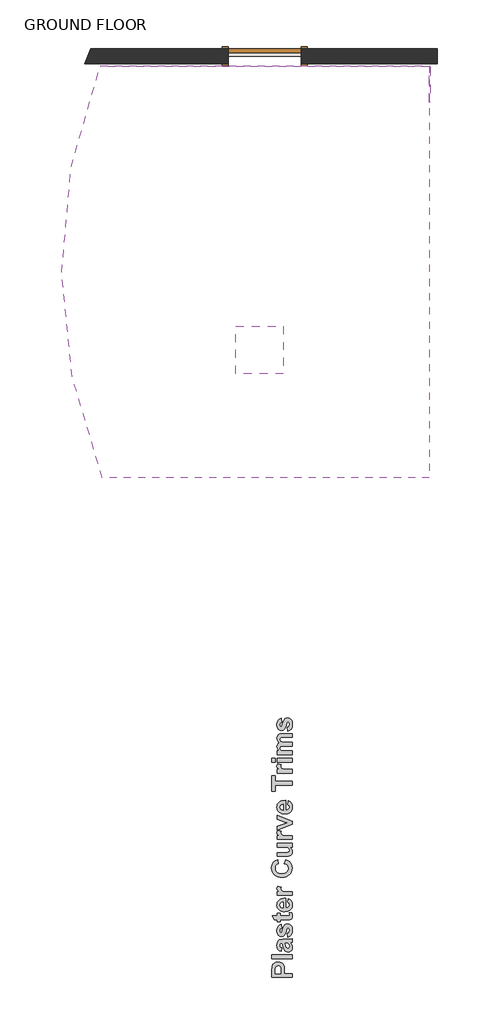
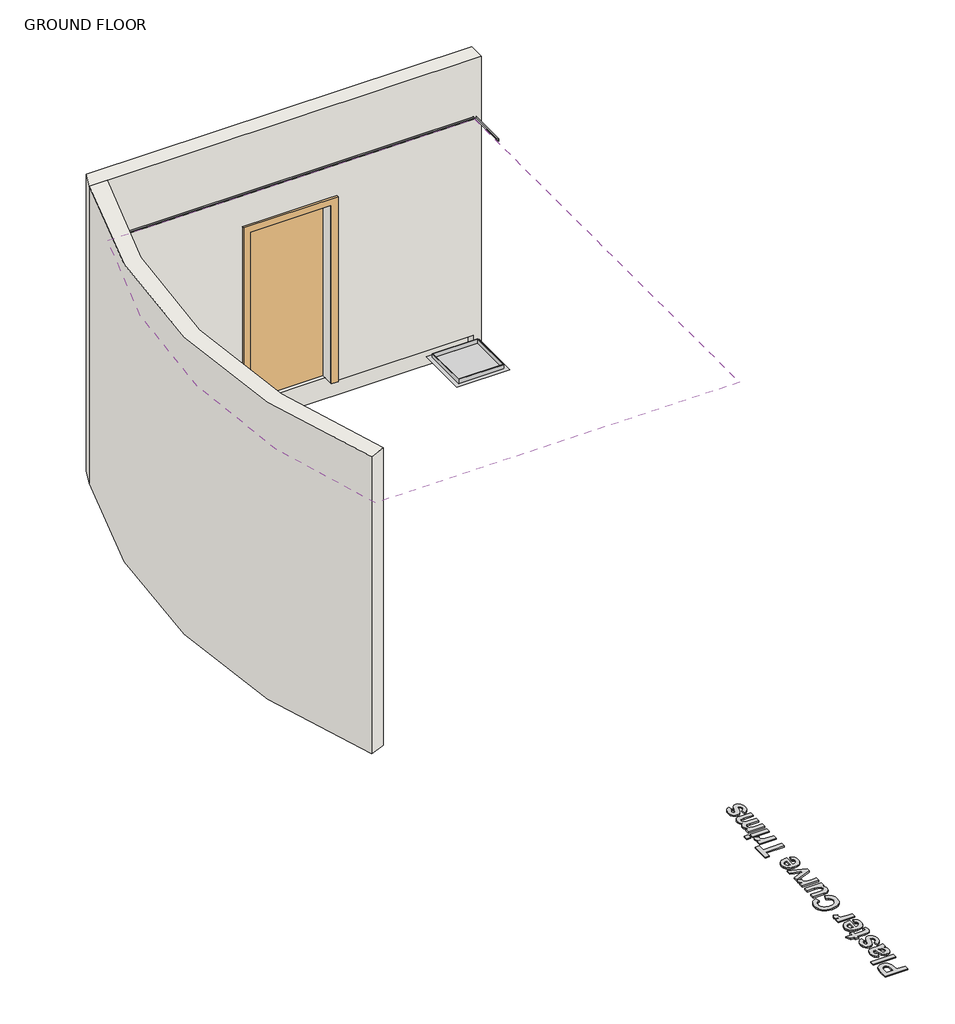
# One storey, incomplete: 2 beams, 2 proxies, 2 walls, 1 covering, 1 door.
"""IFC4 building model written with IfcOpenShell, lengths in millimetres."""

from ifc_helpers import new_model, si_unit, point, frame, frame_2d, origin, origin_with_axes, place, context, project, spatial, polyline, circle_curve, trimmed, segment, composite_curve, outline, extrude, faceted_brep, transform, mapped, element, save
from ifc_brep_helpers import plane_surface, cylinder_surface, revolved_surface, advanced_brep
from components import m_single_flush_0915_x_2134mm_f5238887

model = new_model("IFC4")

# Units and contexts
model_context = context("Model", 3, world=origin())
ifc_project = project(units=[si_unit("LENGTHUNIT", "METRE", prefix="MILLI")], contexts=[model_context])

# Site, building, storey
site = spatial("IfcSite", under=ifc_project)
building = spatial("IfcBuilding", under=site)
storey = spatial("IfcBuildingStorey", under=building, Name="GROUND FLOOR", Elevation=0.0)

# Beams
placement = place(None, origin())
element("IfcBeam", 1, ObjectType="TR12 : Trims Plaster Curve Trims", at=placement, inside=storey, context=model_context, shape_type="SweptSolid", body=[
    extrude(outline(polyline([(2637.0, 191977.7345529), (2637.0, 191976.7345529), (2620.0, 191976.7345529), (2620.0, 191961.7345529), (2619.0, 191961.7345529), (2619.0, 191976.7345529), (2607.0, 191976.7345529), (2607.0, 191977.7345529), (2637.0, 191977.7345529)])), frame((0.0, 41730.3541087, 0.0), z_axis=(0.0, 1.0, 0.0), x_axis=(0.0, 0.0, 1.0)), (0.0, 0.0, 1.0), 446.7622576),
])
element("IfcBeam", 2, ObjectType="TR12 : Trims Plaster Curve Trims", at=placement, inside=storey, context=model_context, shape_type="SweptSolid", body=[
    extrude(outline(polyline([(42193.1163664, 2629.0), (42193.1163664, 2599.0), (42192.1163664, 2599.0), (42192.1163664, 2611.0), (42177.1163664, 2611.0), (42177.1163664, 2612.0), (42192.1163664, 2612.0), (42192.1163664, 2629.0), (42193.1163664, 2629.0)])), frame((187833.1822609, 0.0, 0.0), z_axis=(1.0, 0.0, 0.0), x_axis=(0.0, 1.0, 0.0)), (0.0, 0.0, 1.0), 4128.5522921),
])

# Proxies
element("IfcBuildingElementProxy", 3, Name="600mm Arial", ObjectType="600mm Arial", at=placement, inside=storey, context=model_context, shape_type="SweptSolid", body=[
    extrude(outline(polyline([(190238.3994184, 30720.8631734), (189983.3345684, 30720.8631734), (189983.3345684, 30803.0380842), (189987.1301763, 30863.9575908), (189996.1842826, 30884.0031449), (190011.9597779, 30900.4903167), (190033.8715059, 30911.5213021), (190061.3343105, 30915.1982972), (190082.8190326, 30913.0395453), (190100.587222, 30906.5632893), (190114.7891215, 30896.7579689), (190125.5749739, 30884.6120237), (190137.626029, 30857.5683175), (190141.2318565, 30803.4809051), (190141.2318565, 30769.4469544), (190238.3994184, 30769.4469544), (190238.3994184, 30720.8631734)]), holes=[polyline([(190027.8697009, 30769.4469544), (190096.6967239, 30769.4469544), (190096.6967239, 30799.6220371), (190092.901116, 30843.1766376), (190080.9765813, 30860.3833933), (190072.1913305, 30865.0567356), (190062.093432, 30866.6145163), (190050.026562, 30864.4241342), (190040.2686867, 30857.8529881), (190033.2784422, 30847.94487), (190029.5144643, 30835.7435721), (190027.8697009, 30796.0794697), (190027.8697009, 30769.4469544)])]), origin_with_axes(), (0.0, 0.0, 1.0), 15.0),
    extrude(outline(polyline([(190238.3994184, 30955.6847814), (189983.3345684, 30955.6847814), (189983.3345684, 31004.2685623), (190238.3994184, 31004.2685623), (190238.3994184, 30955.6847814)])), origin_with_axes(), (0.0, 0.0, 1.0), 15.0),
    extrude(outline(polyline([(190108.8426692, 31093.3388274), (190100.7453723, 31048.8036949), (190077.4023838, 31058.4587724), (190061.0180098, 31073.2537357), (190051.3392097, 31094.817533), (190048.112943, 31124.7791127), (190050.0660995, 31151.870264), (190055.9255692, 31171.0222688), (190064.7819876, 31183.9589657), (190075.7259904, 31192.4041932), (190092.7350582, 31197.0538129), (190119.7866719, 31198.6036861), (190177.2268713, 31198.6036861), (190213.4116665, 31201.1657214), (190238.3994184, 31210.7496314), (190238.3994184, 31162.1658504), (190222.9639463, 31157.6111209), (190216.8277135, 31155.9030974), (190236.0271634, 31129.9031834), (190240.8428409, 31115.5905786), (190242.4480668, 31100.360702), (190238.5496612, 31075.586453), (190226.8544444, 31056.6795812), (190209.2127752, 31044.6996938), (190187.4750126, 31040.706398), (190172.5772516, 31042.4855892), (190159.3875142, 31047.8231628), (190148.4909566, 31056.3711881), (190140.4727349, 31067.7817343), (190129.0226511, 31104.7889112), (190116.939966, 31150.0199052), (190111.8158953, 31150.0199052), (190099.1954991, 31148.5095695), (190090.8135317, 31143.9785626), (190086.1164669, 31135.272387), (190084.5507787, 31121.2365454), (190085.8950565, 31111.1623694), (190089.9278899, 31103.5869687), (190108.8426692, 31093.3388274)]), holes=[polyline([(190153.3778017, 31150.0199052), (190160.1150057, 31122.6282683), (190167.8011117, 31098.0833373), (190174.712281, 31091.4884686), (190183.2998439, 31089.290179), (190191.9111293, 31091.0535551), (190199.2730271, 31096.3436836), (190204.3259301, 31104.3539978), (190206.0102311, 31114.2779309), (190204.049167, 31126.1866506), (190198.1659748, 31137.4943991), (190183.6161445, 31148.2486215), (190162.17096, 31150.0199052), (190153.3778017, 31150.0199052)])]), origin_with_axes(), (0.0, 0.0, 1.0), 15.0),
    extrude(outline(polyline([(190185.766989, 31226.944225), (190177.6696922, 31275.528006), (190189.9105276, 31280.1539031), (190198.7985761, 31287.9586218), (190204.2073173, 31299.2110177), (190206.0102311, 31314.1799463), (190204.2863925, 31330.421985), (190199.1148767, 31342.0776642), (190193.484725, 31346.8221741), (190186.2098099, 31348.4036774), (190177.100351, 31345.0508904), (190170.7110777, 31329.1725974), (190158.2804619, 31282.2493949), (190146.9252683, 31256.3601861), (190128.9435759, 31240.3711879), (190105.1103214, 31235.0415218), (190082.9218303, 31239.6120663), (190064.5605772, 31253.3236998), (190052.2248515, 31276.6508733), (190048.112943, 31310.0680377), (190051.4340999, 31341.9353289), (190061.3975706, 31364.4084906), (190077.8768348, 31379.4169568), (190100.7453723, 31388.8901615), (190108.8426692, 31340.3063806), (190098.4521926, 31336.7321831), (190090.8135317, 31330.9438811), (190086.1164669, 31322.5935438), (190084.5507787, 31311.3332404), (190085.8792415, 31297.4950866), (190089.8646297, 31288.2432924), (190099.7332102, 31283.6253028), (190108.5263685, 31288.2432924), (190122.1272968, 31331.2285517), (190131.9484322, 31362.4553341), (190143.8255219, 31382.5641484), (190159.4982194, 31393.3816308), (190180.3266177, 31396.9874583), (190204.0254444, 31391.76059), (190224.1342587, 31376.0799849), (190232.1465498, 31364.3709299), (190237.8696148, 31350.1512385), (190242.4480668, 31314.1799463), (190238.6366439, 31280.8655795), (190227.2023751, 31255.316394), (190209.2206827, 31237.3900542), (190185.766989, 31226.944225)])), origin_with_axes(), (0.0, 0.0, 1.0), 15.0),
    extrude(outline(polyline([(190052.1615914, 31530.5928559), (190088.5994271, 31530.5928559), (190088.5994271, 31494.1550202), (190168.4969731, 31494.1550202), (190196.7426218, 31495.2620725), (190203.3849356, 31500.291253), (190206.0102311, 31509.8435328), (190201.3289813, 31532.6171802), (190235.8690131, 31534.6415044), (190240.8033034, 31515.9006904), (190242.4480668, 31494.8508817), (190237.8933373, 31470.3059507), (190226.1269529, 31454.2695074), (190206.5795723, 31447.1527426), (190171.2171588, 31445.5712393), (190088.5994271, 31445.5712393), (190088.5994271, 31421.2793488), (190052.1615914, 31421.2793488), (190052.1615914, 31445.5712393), (190015.7237557, 31445.5712393), (189987.3832168, 31494.1550202), (190052.1615914, 31494.1550202), (190052.1615914, 31530.5928559)])), origin_with_axes(), (0.0, 0.0, 1.0), 15.0),
    extrude(outline(polyline([(190181.7183406, 31664.1982536), (190189.8156374, 31712.7820345), (190212.486487, 31700.9523899), (190229.0052889, 31683.8088943), (190239.0873723, 31661.525513), (190242.4480668, 31634.2762114), (190240.4672339, 31612.2735469), (190234.5247353, 31593.3310913), (190224.620571, 31577.4488446), (190210.7547409, 31564.6268067), (190182.0504563, 31551.2472889), (190146.6722278, 31546.7874496), (190124.8316674, 31548.2661552), (190105.4898822, 31552.7022719), (190088.6468722, 31560.0957998), (190074.3026374, 31570.4467388), (190062.8446461, 31583.0592275), (190054.6603666, 31597.2374044), (190049.7497989, 31612.9812696), (190048.112943, 31630.2908231), (190049.7932902, 31649.5258568), (190054.8343319, 31666.6179536), (190063.2360682, 31681.5671134), (190074.9984988, 31694.3733363), (190090.2323293, 31704.5779862), (190109.0482646, 31711.7224273), (190131.4463049, 31715.8066595), (190157.4264501, 31716.8306829), (190157.4264501, 31595.3712305), (190177.8911026, 31598.486792), (190193.2316845, 31606.8213143), (190202.8155944, 31619.1095949), (190206.0102311, 31634.086431), (190204.5710631, 31644.2871272), (190200.2535591, 31652.7481698), (190192.7414185, 31659.4062986), (190181.7183406, 31664.1982536)]), holes=[polyline([(190129.0859112, 31668.246902), (190109.8785538, 31665.2894908), (190095.9059723, 31657.4294195), (190087.3895771, 31646.0109658), (190084.5507787, 31632.3784074), (190087.5398199, 31617.9867275), (190096.5069435, 31606.3152333), (190110.661398, 31598.6607574), (190129.0859112, 31596.1936123), (190129.0859112, 31668.246902)])]), origin_with_axes(), (0.0, 0.0, 1.0), 15.0),
    extrude(outline(polyline([(190238.3994184, 31801.8522996), (190238.3994184, 31753.2685186), (190052.1615914, 31753.2685186), (190052.1615914, 31801.8522996), (190078.0982453, 31801.8522996), (190053.901245, 31821.2731599), (190048.112943, 31840.8838007), (190050.6749783, 31856.0504172), (190058.3610843, 31870.6793226), (190104.6042404, 31856.5090532), (190098.673603, 31844.8059288), (190096.6967239, 31833.9884464), (190102.2319854, 31816.8765808), (190109.9892591, 31810.6296428), (190122.1905569, 31805.8693179), (190182.6672426, 31801.8522996), (190238.3994184, 31801.8522996)])), origin_with_axes(), (0.0, 0.0, 1.0), 15.0),
    extrude(outline(polyline([(190141.2318565, 32154.0847115), (190157.4264501, 32202.6684924), (190193.207962, 32187.3437256), (190207.1429828, 32176.822775), (190218.4408469, 32164.3961129), (190233.4097755, 32134.0312498), (190238.3994184, 32096.4547317), (190236.2683427, 32072.1272574), (190229.8751157, 32050.0692403), (190219.2197373, 32030.2806805), (190204.3022075, 32012.7615778), (190185.6879138, 31998.4252505), (190163.9422437, 31988.1850168), (190139.065197, 31982.0408765), (190111.0567738, 31979.9928297), (190081.5221999, 31982.0586684), (190055.4827483, 31988.2561844), (190032.938419, 31998.5853777), (190013.8892119, 32013.0462484), (189998.7502717, 32030.8757211), (189987.9367429, 32051.3107204), (189981.4486257, 32074.3512464), (189979.28592, 32099.9972991), (189981.0690649, 32122.4230157), (189986.4184998, 32142.6346277), (189995.3342246, 32160.6321351), (190007.8162393, 32176.4155379), (190028.3283369, 32191.7403047), (190056.2102398, 32202.6684924), (190064.3075366, 32154.0847115), (190047.5040642, 32146.6437385), (190034.6701651, 32133.9363596), (190026.5333306, 32116.9431068), (190023.8210525, 32096.6445121), (190028.7474352, 32069.1975226), (190043.5265835, 32047.4597599), (190054.9035227, 32039.1983821), (190069.3288096, 32033.297398), (190107.324426, 32028.5766107), (190147.3997193, 32033.1550627), (190162.3844629, 32038.8781277), (190174.0006046, 32046.8904187), (190188.8983655, 32067.96395), (190193.8642858, 32094.5569278), (190190.6933717, 32114.634112), (190181.1806295, 32131.722255), (190164.851608, 32145.1096803), (190141.2318565, 32154.0847115)])), origin_with_axes(), (0.0, 0.0, 1.0), 15.0),
    extrude(outline(polyline([(190238.3994184, 32360.5657805), (190211.0710416, 32360.5657805), (190224.1263512, 32349.3766448), (190234.0660994, 32335.1668377), (190240.3525749, 32318.9959666), (190242.4480668, 32301.9236387), (190240.3921125, 32285.0489986), (190234.2242497, 32269.9772723), (190224.3319466, 32257.7680669), (190211.1026717, 32249.4809897), (190193.3502973, 32244.7364798), (190169.888696, 32243.1549766), (190052.1615914, 32243.1549766), (190052.1615914, 32291.7387575), (190138.2586303, 32291.7387575), (190186.6842609, 32294.364053), (190200.7912702, 32303.9795929), (190206.0102311, 32321.7240598), (190204.2705775, 32333.3560165), (190199.0516166, 32343.7069555), (190191.2468979, 32351.8833275), (190181.7499707, 32356.9915831), (190131.1734956, 32360.5657805), (190052.1615914, 32360.5657805), (190052.1615914, 32409.1495615), (190238.3994184, 32409.1495615), (190238.3994184, 32360.5657805)])), origin_with_axes(), (0.0, 0.0, 1.0), 15.0),
    extrude(outline(polyline([(190238.3994184, 32506.3171234), (190238.3994184, 32457.7333424), (190052.1615914, 32457.7333424), (190052.1615914, 32506.3171234), (190078.0982453, 32506.3171234), (190053.901245, 32525.7379837), (190048.112943, 32545.3486245), (190050.6749783, 32560.515241), (190058.3610843, 32575.1441464), (190104.6042404, 32560.9738769), (190098.673603, 32549.2707526), (190096.6967239, 32538.4532701), (190102.2319854, 32521.3414046), (190109.9892591, 32515.0944666), (190122.1905569, 32510.3341417), (190182.6672426, 32506.3171234), (190238.3994184, 32506.3171234)])), origin_with_axes(), (0.0, 0.0, 1.0), 15.0),
    extrude(outline(polyline([(190238.3994184, 32645.3628923), (190052.1615914, 32573.1198222), (190052.1615914, 32621.7036031), (190147.1783088, 32656.2436349), (190178.9348948, 32666.2387357), (190162.9933417, 32671.1730259), (190147.1783088, 32676.2970966), (190052.1615914, 32710.7738682), (190052.1615914, 32759.3576492), (190238.3994184, 32688.1267411), (190238.3994184, 32645.3628923)])), origin_with_axes(), (0.0, 0.0, 1.0), 15.0),
    extrude(outline(polyline([(190181.7183406, 32894.987371), (190189.8156374, 32943.5711519), (190212.486487, 32931.7415073), (190229.0052889, 32914.5980117), (190239.0873723, 32892.3146304), (190242.4480668, 32865.0653288), (190240.4672339, 32843.0626643), (190234.5247353, 32824.1202087), (190224.620571, 32808.237962), (190210.7547409, 32795.4159241), (190182.0504563, 32782.0364063), (190146.6722278, 32777.576567), (190124.8316674, 32779.0552726), (190105.4898822, 32783.4913893), (190088.6468722, 32790.8849172), (190074.3026374, 32801.2358562), (190062.8446461, 32813.8483449), (190054.6603666, 32828.0265218), (190049.7497989, 32843.770387), (190048.112943, 32861.0799405), (190049.7932902, 32880.3149742), (190054.8343319, 32897.407071), (190063.2360682, 32912.3562308), (190074.9984988, 32925.1624537), (190090.2323293, 32935.3671036), (190109.0482646, 32942.5115447), (190131.4463049, 32946.595777), (190157.4264501, 32947.6198003), (190157.4264501, 32826.160348), (190177.8911026, 32829.2759094), (190193.2316845, 32837.6104317), (190202.8155944, 32849.8987123), (190206.0102311, 32864.8755484), (190204.5710631, 32875.0762446), (190200.2535591, 32883.5372872), (190192.7414185, 32890.195416), (190181.7183406, 32894.987371)]), holes=[polyline([(190129.0859112, 32899.0360194), (190109.8785538, 32896.0786082), (190095.9059723, 32888.2185369), (190087.3895771, 32876.8000832), (190084.5507787, 32863.1675249), (190087.5398199, 32848.7758449), (190096.5069435, 32837.1043507), (190110.661398, 32829.4498748), (190129.0859112, 32826.9827297), (190129.0859112, 32899.0360194)])]), origin_with_axes(), (0.0, 0.0, 1.0), 15.0),
    extrude(outline(polyline([(190238.3994184, 33137.9062757), (190027.8697009, 33137.9062757), (190027.8697009, 33065.0306043), (189983.3345684, 33065.0306043), (189983.3345684, 33259.3657281), (190027.8697009, 33259.3657281), (190027.8697009, 33186.4900567), (190238.3994184, 33186.4900567), (190238.3994184, 33137.9062757)])), origin_with_axes(), (0.0, 0.0, 1.0), 15.0),
    extrude(outline(polyline([(190238.3994184, 33340.3386963), (190238.3994184, 33291.7549154), (190052.1615914, 33291.7549154), (190052.1615914, 33340.3386963), (190078.0982453, 33340.3386963), (190053.901245, 33359.7595567), (190048.112943, 33379.3701975), (190050.6749783, 33394.536814), (190058.3610843, 33409.1657194), (190104.6042404, 33394.9954499), (190098.673603, 33383.2923256), (190096.6967239, 33372.4748431), (190102.2319854, 33355.3629776), (190109.9892591, 33349.1160396), (190122.1905569, 33344.3557147), (190182.6672426, 33340.3386963), (190238.3994184, 33340.3386963)])), origin_with_axes(), (0.0, 0.0, 1.0), 15.0),
    extrude(outline(polyline([(190238.3994184, 33429.4089614), (190052.1615914, 33429.4089614), (190052.1615914, 33477.9927424), (190238.3994184, 33477.9927424), (190238.3994184, 33429.4089614)])), origin_with_axes(), (0.0, 0.0, 1.0), 15.0),
    extrude(outline(polyline([(190027.8697009, 33429.4089614), (189983.3345684, 33429.4089614), (189983.3345684, 33477.9927424), (190027.8697009, 33477.9927424), (190027.8697009, 33429.4089614)])), origin_with_axes(), (0.0, 0.0, 1.0), 15.0),
    extrude(outline(polyline([(190052.1615914, 33522.5278749), (190052.1615914, 33571.1116559), (190077.0860832, 33571.1116559), (190064.4103343, 33583.0717745), (190055.356228, 33596.1152228), (190049.9237642, 33610.2420009), (190048.112943, 33625.4521088), (190049.8921342, 33641.1010838), (190055.2297078, 33654.5201392), (190064.1731089, 33665.72509), (190076.7697825, 33674.7317512), (190064.1731089, 33687.1702745), (190055.2297078, 33700.5735149), (190049.8921342, 33714.9256572), (190048.112943, 33730.2108864), (190050.1926198, 33748.6670298), (190056.4316503, 33764.0550568), (190066.7035141, 33776.1693719), (190080.8816911, 33784.8043799), (190096.4594984, 33788.5050976), (190119.4071111, 33789.7386701), (190238.3994184, 33789.7386701), (190238.3994184, 33741.1548892), (190131.1734956, 33741.1548892), (190108.2258829, 33739.9213166), (190095.1784808, 33736.2205989), (190087.2077042, 33727.8386315), (190084.5507787, 33715.8508366), (190086.1401895, 33706.1483139), (190090.9084219, 33697.0309475), (190098.7447707, 33689.4397317), (190109.5385306, 33684.3156611), (190148.3169912, 33680.425163), (190238.3994184, 33680.425163), (190238.3994184, 33631.8413821), (190135.6017048, 33631.8413821), (190100.2709214, 33629.3109768), (190088.4412768, 33621.4983506), (190084.5507787, 33607.1066707), (190086.0927444, 33596.7161941), (190090.7186415, 33587.4327698), (190098.2624122, 33579.9364442), (190108.5579986, 33574.9072637), (190147.241569, 33571.1116559), (190238.3994184, 33571.1116559), (190238.3994184, 33522.5278749), (190052.1615914, 33522.5278749)])), origin_with_axes(), (0.0, 0.0, 1.0), 15.0),
    extrude(outline(polyline([(190185.766989, 33818.079209), (190177.6696922, 33866.66299), (190189.9105276, 33871.2888871), (190198.7985761, 33879.0936058), (190204.2073173, 33890.3460017), (190206.0102311, 33905.3149303), (190204.2863925, 33921.556969), (190199.1148767, 33933.2126483), (190193.484725, 33937.9571581), (190186.2098099, 33939.5386614), (190177.100351, 33936.1858744), (190170.7110777, 33920.3075814), (190158.2804619, 33873.3843789), (190146.9252683, 33847.4951701), (190128.9435759, 33831.5061719), (190105.1103214, 33826.1765059), (190082.9218303, 33830.7470503), (190064.5605772, 33844.4586838), (190052.2248515, 33867.7858573), (190048.112943, 33901.2030217), (190051.4340999, 33933.070313), (190061.3975706, 33955.5434747), (190077.8768348, 33970.5519408), (190100.7453723, 33980.0251455), (190108.8426692, 33931.4413646), (190098.4521926, 33927.8671672), (190090.8135317, 33922.0788651), (190086.1164669, 33913.7285278), (190084.5507787, 33902.4682244), (190085.8792415, 33888.6300706), (190089.8646297, 33879.3782764), (190099.7332102, 33874.7602868), (190108.5263685, 33879.3782764), (190122.1272968, 33922.3635357), (190131.9484322, 33953.5903181), (190143.8255219, 33973.6991324), (190159.4982194, 33984.5166149), (190180.3266177, 33988.1224424), (190204.0254444, 33982.895574), (190224.1342587, 33967.2149689), (190232.1465498, 33955.505914), (190237.8696148, 33941.2862225), (190242.4480668, 33905.3149303), (190238.6366439, 33872.0005636), (190227.2023751, 33846.451378), (190209.2206827, 33828.5250382), (190185.766989, 33818.079209)])), origin_with_axes(), (0.0, 0.0, 1.0), 15.0),
])
element("IfcBuildingElementProxy", 4, Name="Ceiling_Access_HatchPanel_Parametric : Top Hung", ObjectType="Ceiling_Access_HatchPanel_Parametric : Top Hung", at=placement, inside=storey, context=model_context, shape_type="SolidModel", body=[
    faceted_brep([(189575.1752298, 38870.1459416, 2650.0), (189575.1752298, 38359.4459416, 2650.0), (190085.8752298, 38359.4459416, 2650.0), (190085.8752298, 38870.1459416, 2650.0), (189581.5252298, 38863.7959416, 2650.0), (190079.5252298, 38863.7959416, 2650.0), (190079.5252298, 38365.7959416, 2650.0), (189581.5252298, 38365.7959416, 2650.0), (189575.1752298, 38870.1459416, 2600.0), (190085.8752298, 38870.1459416, 2600.0), (190085.8752298, 38359.4459416, 2600.0), (189575.1752298, 38359.4459416, 2600.0), (189581.5252298, 38863.7959416, 2600.0), (189581.5252298, 38365.7959416, 2600.0), (190079.5252298, 38365.7959416, 2600.0), (190079.5252298, 38863.7959416, 2600.0), (189575.1752298, 38870.1459416, 2611.0), (189575.1752298, 38359.4459416, 2611.0), (190085.8752298, 38359.4459416, 2611.0), (190085.8752298, 38870.1459416, 2611.0)], [[[0, 1, 2, 3], [4, 5, 6, 7]], [[8, 9, 10, 11], [12, 13, 14, 15]], [[5, 4, 12, 15]], [[6, 5, 15, 14]], [[7, 6, 14, 13]], [[4, 7, 13, 12]], [[1, 0, 16, 8, 11, 17]], [[2, 1, 17, 11, 10, 18]], [[3, 2, 18, 10, 9, 19]], [[0, 3, 19, 9, 8, 16]]]),
    extrude(outline(polyline([(189581.5252298, 38863.7959416), (190079.5252298, 38863.7959416), (190079.5252298, 38365.7959416), (189581.5252298, 38365.7959416), (189581.5252298, 38863.7959416)])), frame((0.0, 0.0, 2593.65), z_axis=(0.0, 0.0, 1.0), x_axis=(1.0, 0.0, 0.0)), (0.0, 0.0, 1.0), 6.35),
    faceted_brep([(189581.5252298, 38863.7959416, 2600.0), (189581.5252298, 38863.7959416, 2590.475), (190079.5252298, 38863.7959416, 2590.475), (190079.5252298, 38863.7959416, 2600.0), (190079.5252298, 38365.7959416, 2590.475), (190079.5252298, 38365.7959416, 2600.0), (189581.5252298, 38365.7959416, 2590.475), (189581.5252298, 38365.7959416, 2600.0), (190117.6252298, 38901.8959416, 2590.475), (190117.6252298, 38327.6959416, 2590.475), (189543.4252298, 38327.6959416, 2590.475), (189543.4252298, 38901.8959416, 2590.475), (189530.7252298, 38914.5959416, 2600.0), (189530.7252298, 38314.9959416, 2600.0), (190130.3252298, 38314.9959416, 2600.0), (190130.3252298, 38914.5959416, 2600.0)], [[[0, 1, 2, 3]], [[3, 2, 4, 5]], [[5, 4, 6, 7]], [[8, 9, 10, 11], [1, 6, 4, 2]], [[12, 13, 14, 15], [3, 5, 7, 0]], [[7, 6, 1, 0]], [[11, 12, 15, 8]], [[8, 15, 14, 9]], [[9, 14, 13, 10]], [[10, 13, 12, 11]]]),
])

# Covering
element("IfcCovering", 5, ObjectType="_C2.3 - 12mm FLUSHPLASTER CEILING (UNDER CONCRETE SOFFIT)", at=placement, inside=storey, context=model_context, shape_type="SweptSolid", body=[
    extrude(outline(composite_curve([segment(polyline([(187825.0638626, 42192.1163664), (191966.7345529, 42192.1163664), (191966.7345529, 37005.0867145), (187852.8650589, 37005.0867145)]), True, "CONTINUOUS"), segment(trimmed(circle_curve(frame_2d((194320.0884846, 39633.3387625)), 6980.8801498), [point((187852.8650589, 37005.0867145))], [point((187825.0638626, 42192.1163664))], False, "CARTESIAN"), True, "CONTINUOUS")], self_intersect=False), holes=[polyline([(189575.1752298, 38870.1459416), (189575.1752298, 38359.4459416), (190085.8752298, 38359.4459416), (190085.8752298, 38870.1459416), (189575.1752298, 38870.1459416)])]), frame((0.0, 0.0, 2600.0), z_axis=(0.0, 0.0, 1.0), x_axis=(1.0, 0.0, 0.0)), (0.0, 0.0, 1.0), 11.0),
])

# Door
m_single_flush_0915_x_2134mm_shape = m_single_flush_0915_x_2134mm_f5238887(model_context)
element("IfcDoor", 6, ObjectType="M_Single-Flush : 0915 x 2134mm", at=placement, inside=storey, context=model_context, shape_type="MappedRepresentation", body=[
    mapped(m_single_flush_0915_x_2134mm_shape, transform((189894.7345529, 42312.9193804, 0.0), x_axis=(1.0, 0.0, 0.0), y_axis=(0.0, 1.0, 0.0), z_axis=(0.0, 0.0, 1.0))),
])

# Walls
element("IfcWall", 7, ObjectType="190mm MAXI BLOCK- plastered", at=placement, inside=storey, context=model_context, shape_type="AdvancedBrep", body=[
    advanced_brep(
    [(192061.7345529, 42217.9193804, -250.0), (192061.7345529, 42217.9193804, 3300.0), (187835.2885112, 42217.9193804, 3300.0), (187631.1823593, 42217.9193804, 3300.0), (187631.1823593, 42217.9193804, -250.0), (187771.1823593, 42217.9193804, -250.0), (187771.1823593, 42217.9193804, 0.0), (189437.2345529, 42217.9193804, 0.0), (189437.2345529, 42217.9193804, 2134.0), (190352.2345529, 42217.9193804, 2134.0), (190352.2345529, 42217.9193804, 0.0), (191966.7345529, 42217.9193804, 0.0), (191966.7345529, 42217.9193804, -250.0), (192061.7345529, 42407.9193804, -250.0), (187707.7345529, 42407.9193804, -250.0), (187707.7345529, 42407.9193804, 3300.0), (192061.7345529, 42407.9193804, 3300.0), (189437.2345529, 42407.9193804, 0.0), (190352.2345529, 42407.9193804, 0.0), (190352.2345529, 42407.9193804, 2134.0), (189437.2345529, 42407.9193804, 2134.0), (191966.7345529, 42312.9193804, -250.0), (187808.6698513, 42312.9193804, -250.0), (189437.2345529, 42312.9193804, 0.0), (190352.2345529, 42312.9193804, 0.0), (187808.6698513, 42312.9193804, 0.0), (191966.7345529, 42312.9193804, 0.0)],
    [
        (0, 1),
        (1, 2),
        (2, 3),
        (3, 4),
        (4, 5),
        (5, 6),
        (6, 7),
        (7, 8),
        (8, 9),
        (9, 10),
        (10, 11),
        (11, 12),
        (12, 0),
        (13, 14),
        (14, 15),
        (15, 16),
        (16, 13),
        (17, 18),
        (18, 19),
        (19, 20),
        (20, 17),
        (13, 0),
        (12, 21),
        (21, 22),
        (22, 5, circle_curve(frame((194460.0884846, 39633.3387625, -250.0), z_axis=(0.0, 0.0, 1.0), x_axis=(1.0, 0.0, 0.0)), 7170.8801498)),
        (4, 14, circle_curve(frame((194320.0884846, 39633.3387625, -250.0), z_axis=(0.0, 0.0, -1.0), x_axis=(1.0, 0.0, 0.0)), 7170.8801498)),
        (16, 1),
        (15, 3, circle_curve(frame((194320.0884846, 39633.3387625, 3300.0), z_axis=(0.0, 0.0, 1.0), x_axis=(1.0, 0.0, 0.0)), 7170.8801498)),
        (17, 23),
        (23, 24),
        (24, 18),
        (24, 10),
        (9, 19),
        (8, 20),
        (7, 23),
        (25, 23),
        (6, 25, circle_curve(frame((194460.0884846, 39633.3387625, 0.0), z_axis=(0.0, 0.0, -1.0), x_axis=(1.0, 0.0, 0.0)), 7170.8801498)),
        (24, 26),
        (26, 11),
        (25, 22),
        (21, 26),
    ],
    [
        plane_surface(frame((188894.7345529, 42217.9193804, -250.0), z_axis=(0.0, -1.0, 0.0), x_axis=(1.0, 0.0, 0.0))),
        plane_surface(frame((188894.7345529, 42407.9193804, -250.0), z_axis=(0.0, 1.0, 0.0), x_axis=(-1.0, 0.0, 0.0))),
        plane_surface(frame((187771.2009755, 42217.9193804, -250.0), z_axis=(0.0, 0.0, -1.0), x_axis=(0.0, 1.0, 0.0))),
        plane_surface(frame((192061.7345529, 42217.9193804, -250.0), z_axis=(1.0, 0.0, 0.0), x_axis=(0.0, 1.0, 0.0))),
        plane_surface(frame((192061.7345529, 42217.9193804, 3300.0), z_axis=(0.0, 0.0, 1.0), x_axis=(0.0, 1.0, 0.0))),
        plane_surface(frame((189437.2345529, 42407.9193804, 0.0), z_axis=(0.0, 0.0, 1.0), x_axis=(0.0, -1.0, 0.0))),
        plane_surface(frame((190352.2345529, 42407.9193804, 0.0), z_axis=(-1.0, 0.0, 0.0), x_axis=(0.0, -1.0, 0.0))),
        plane_surface(frame((190352.2345529, 42407.9193804, 2134.0), z_axis=(0.0, 0.0, -1.0), x_axis=(0.0, -1.0, 0.0))),
        plane_surface(frame((189437.2345529, 42407.9193804, 2134.0), z_axis=(1.0, 0.0, 0.0), x_axis=(0.0, -1.0, 0.0))),
        plane_surface(frame((190866.7345529, 42312.9193804, 0.0), z_axis=(0.0, 0.0, -1.0), x_axis=(-1.0, 0.0, 0.0))),
        plane_surface(frame((187808.6698513, 42312.9193804, -250.0), z_axis=(0.0, -1.0, 0.0), x_axis=(0.0, 0.0, 1.0))),
        plane_surface(frame((191966.7345529, 42312.9193804, -250.0), z_axis=(-1.0, 0.0, 0.0), x_axis=(0.0, 0.0, 1.0))),
        cylinder_surface(frame((194320.0884846, 39633.3387625, -250.0), z_axis=(0.0, 0.0, 1.0), x_axis=(1.0, 0.0, 0.0)), 7170.8801498),
        revolved_surface(polyline([(201630.96863440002, 39633.3387625, -250.0), (201630.96863440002, 39633.3387625, 0.0)]), (194460.0884846, 39633.3387625, 0.0), (0.0, 0.0, -1.0)),
    ],
    [
        (0, [[1, 2, 3, 4, 5, 6, 7, 8, 9, 10, 11, 12, 13]]),
        (1, [[14, 15, 16, 17], [18, 19, 20, 21]]),
        (2, [[-14, 22, -13, 23, 24, 25, -5, 26]]),
        (3, [[-1, -22, -17, 27]]),
        (4, [[-3, -2, -27, -16, 28]]),
        (5, [[-18, 29, 30, 31]]),
        (6, [[-19, -31, 32, -10, 33]]),
        (7, [[-20, -33, -9, 34]]),
        (8, [[-21, -34, -8, 35, -29]]),
        (9, [[36, -35, -7, 37]]),
        (9, [[38, 39, -11, -32]]),
        (10, [[40, -24, 41, -38, -30, -36]]),
        (11, [[-41, -23, -12, -39]]),
        (12, [[-4, -28, -15, -26]]),
        (13, [[-40, -37, -6, -25]]),
    ],
),
])
element("IfcWall", 8, ObjectType="190mm MAXI BLOCK- plastered", at=placement, inside=storey, context=model_context, shape_type="SweptSolid", body=[
    extrude(outline(composite_curve([segment(polyline([(187631.1823593, 42217.9193804), (187835.2885112, 42217.9193804)]), True, "CONTINUOUS"), segment(trimmed(circle_curve(frame_2d((194320.0884846, 39633.3387625)), 6980.8801498), [point((187835.2885112, 42217.9193804))], [point((187890.2358405, 36914.9416905))], True, "CARTESIAN"), True, "CONTINUOUS"), segment(polyline([(187890.2358405, 36914.9416905), (187715.2332654, 36840.9545381)]), True, "CONTINUOUS"), segment(trimmed(circle_curve(frame_2d((194320.0884846, 39633.3387625)), 7170.8801498), [point((187715.2332654, 36840.9545381))], [point((187631.1823593, 42217.9193804))], False, "CARTESIAN"), True, "CONTINUOUS")], self_intersect=False)), frame((0.0, 0.0, -250.0), z_axis=(0.0, 0.0, 1.0), x_axis=(1.0, 0.0, 0.0)), (0.0, 0.0, 1.0), 3550.0),
])

save(model, "model.ifc")
